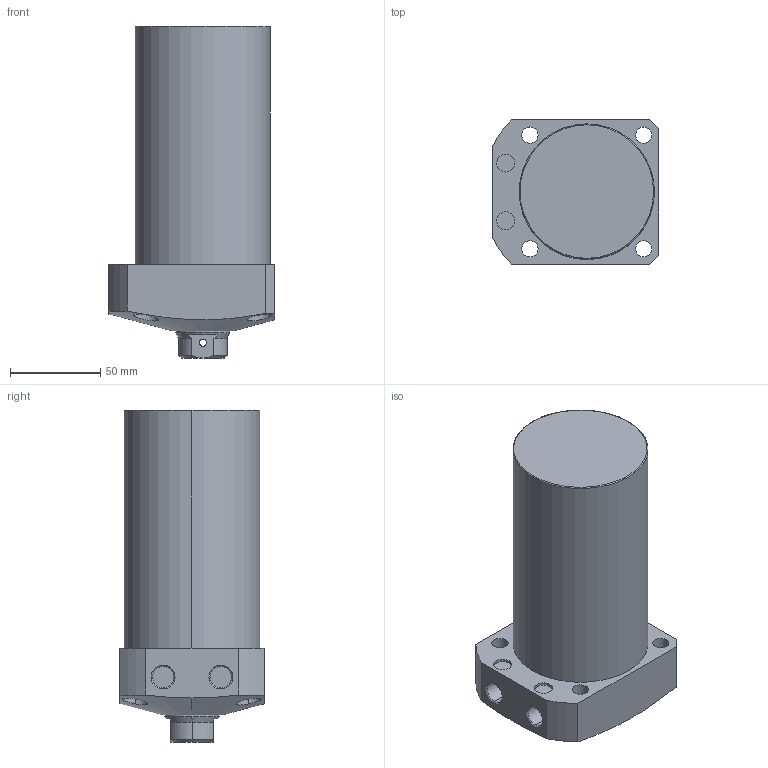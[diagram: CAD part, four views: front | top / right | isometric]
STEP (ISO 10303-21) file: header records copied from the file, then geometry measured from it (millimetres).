
FILE_DESCRIPTION (( 'STEP AP203' ), '1' );
FILE_NAME ('CLL-075CB-095.STEP', '2019-12-24T00:16:19', ( '' ), ( '' ), 'SwSTEP 2.0', 'SolidWorks 2015', '' );
FILE_SCHEMA (( 'CONFIG_CONTROL_DESIGN' ));
Length unit declared in the file: millimetre
Products named in the file (1): CLL-075CB-095
Bounding box: 92 x 80 x 184 mm (x, y, z)
Volume: 802088.6 mm3; surface area: 63514.9 mm2
Topology: 1 solids, 1 shells, 78 faces, 183 edges, 116 vertices
Faces by surface type: cylinder 39, plane 22, cone 15, torus 2
Entity records: 2862 total; most frequent: CARTESIAN_POINT 955, DIRECTION 396, ORIENTED_EDGE 362, EDGE_CURVE 181, AXIS2_PLACEMENT_3D 164, VERTEX_POINT 116, EDGE_LOOP 101, CIRCLE 85
